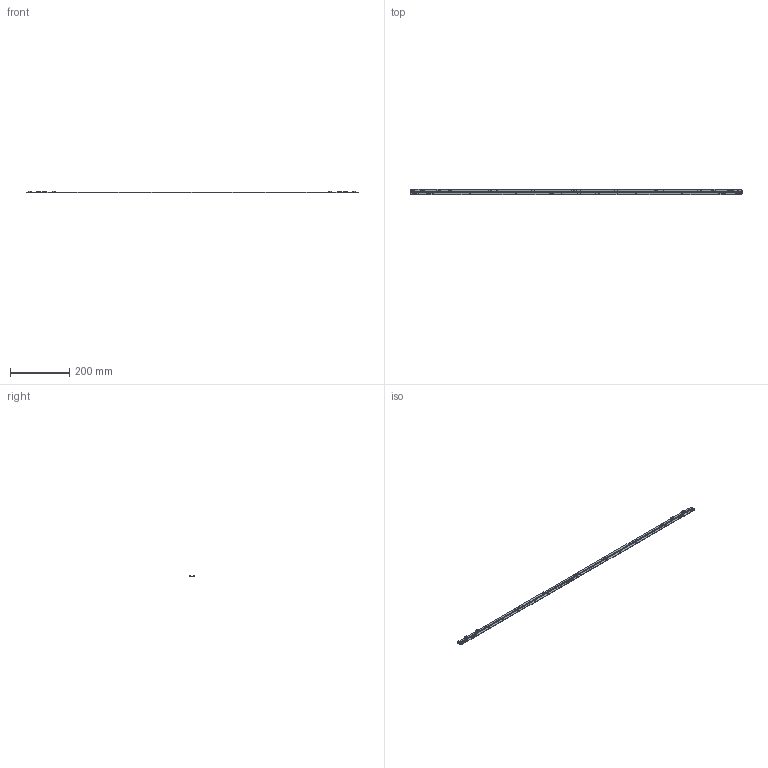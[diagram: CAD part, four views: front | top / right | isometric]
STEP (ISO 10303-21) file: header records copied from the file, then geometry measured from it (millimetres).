
FILE_DESCRIPTION((''),'2;1');
FILE_NAME('EC224DT44_06072021_10-24-46_ASM','2021-06-07T',('SYSTEM'),(''),'PRO/ENGINEER BY PARAMETRIC TECHNOLOGY CORPORATION, 2009360','PRO/ENGINEER BY PARAMETRIC TECHNOLOGY CORPORATION, 2009360','');
FILE_SCHEMA(('AUTOMOTIVE_DESIGN_CC2 { 1 2 10303 214 -1 1 5 2 }'));
Length unit declared in the file: inch
Products named in the file (11): EC224DT44_06072021_10-24-46; LM28XB; R2010; TC_R0_5MM; ARKALUMEN_LOGO_25MM; UL; ROHS; FIDUCIAL_R0_5MM; LABEL_BRACKET; WAGO-2060-1; EC224DT44_06072021_10-24-46_ASM
Assembly tree (260 placements, depth 2):
  EC224DT44_06072021_10-24-46_ASM
    EC224DT44_06072021_10-24-46
    LM28XB  x224
    R2010  x14
    TC_R0_5MM  x4
    ARKALUMEN_LOGO_25MM
    UL
    ROHS
    FIDUCIAL_R0_5MM  x5
    LABEL_BRACKET
    WAGO-2060-1  x8
Bounding box: 1118.4 x 20 x 6.34 mm (x, y, z)
Volume: 38335.6 mm3; surface area: 58531.3 mm2
Topology: 260 solids, 274 shells, 13866 faces, 41116 edges, 28016 vertices
Faces by surface type: plane 9502, cylinder 4348, sphere 16
Entity records: 24697 total; most frequent: CARTESIAN_POINT 3625, DIRECTION 3380, ORIENTED_EDGE 3226, EDGE_CURVE 1617, VECTOR 1488, LINE 1488, PRESENTATION_STYLE_ASSIGNMENT 1242, STYLED_ITEM 1242
